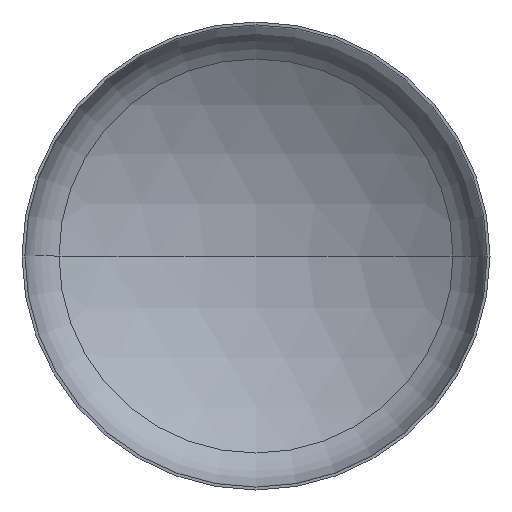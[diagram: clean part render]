
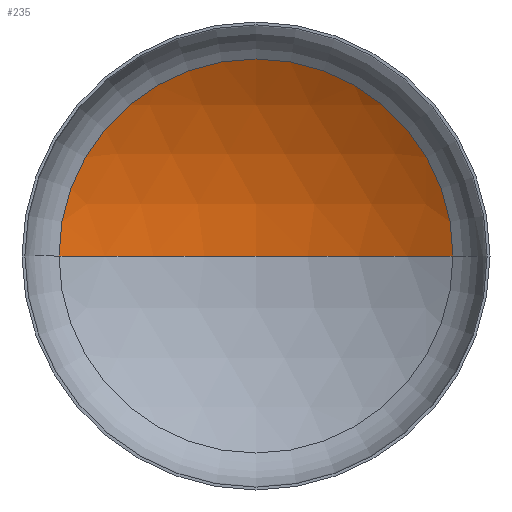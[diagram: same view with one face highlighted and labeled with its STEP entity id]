
A CAD part, front view. The second image highlights one B-rep face of the part: STEP entity #235.
In plain terms, the highlighted spherical face has radius 6400 mm.
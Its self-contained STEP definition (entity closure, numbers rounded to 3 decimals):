
#31 = AXIS2_PLACEMENT_3D ( 'NONE', #162, #214, #157 ) ;
#36 = SPHERICAL_SURFACE ( 'NONE', #31, 6400. ) ;
#67 = AXIS2_PLACEMENT_3D ( 'NONE', #241, #242, #339 ) ;
#68 = VERTEX_POINT ( 'NONE', #166 ) ;
#70 = AXIS2_PLACEMENT_3D ( 'NONE', #348, #328, #325 ) ;
#72 = AXIS2_PLACEMENT_3D ( 'NONE', #347, #345, #341 ) ;
#73 = ORIENTED_EDGE ( 'NONE', *, *, #109, .T. ) ;
#84 = ORIENTED_EDGE ( 'NONE', *, *, #111, .T. ) ;
#109 = EDGE_CURVE ( 'NONE', #68, #125, #334, .T. ) ;
#111 = EDGE_CURVE ( 'NONE', #231, #68, #213, .T. ) ;
#114 = EDGE_CURVE ( 'NONE', #231, #125, #137, .T. ) ;
#125 = VERTEX_POINT ( 'NONE', #145 ) ;
#137 = CIRCLE ( 'NONE', #67, 6400. ) ;
#140 = EDGE_LOOP ( 'NONE', ( #143, #84, #73 ) ) ;
#143 = ORIENTED_EDGE ( 'NONE', *, *, #114, .F. ) ;
#145 = CARTESIAN_POINT ( 'NONE',  ( -3368.356, 1195.863, 0. ) ) ;
#154 = CARTESIAN_POINT ( 'NONE',  ( 0., 2153.972, 0. ) ) ;
#157 = DIRECTION ( 'NONE',  ( -1., 0., 0. ) ) ;
#162 = CARTESIAN_POINT ( 'NONE',  ( 0., -4246.028, 0. ) ) ;
#166 = CARTESIAN_POINT ( 'NONE',  ( 3368.356, 1195.863, 0. ) ) ;
#213 = CIRCLE ( 'NONE', #70, 6400. ) ;
#214 = DIRECTION ( 'NONE',  ( 0., 0., -1. ) ) ;
#231 = VERTEX_POINT ( 'NONE', #154 ) ;
#235 = ADVANCED_FACE ( 'NONE', ( #257 ), #36, .F. ) ;
#241 = CARTESIAN_POINT ( 'NONE',  ( 0., -4246.028, 0. ) ) ;
#242 = DIRECTION ( 'NONE',  ( 0., 0., 1. ) ) ;
#257 = FACE_OUTER_BOUND ( 'NONE', #140, .T. ) ;
#325 = DIRECTION ( 'NONE',  ( -1., 0., 0. ) ) ;
#328 = DIRECTION ( 'NONE',  ( 0., 0., -1. ) ) ;
#334 = CIRCLE ( 'NONE', #72, 3368.356 ) ;
#339 = DIRECTION ( 'NONE',  ( 1., 0., 0. ) ) ;
#341 = DIRECTION ( 'NONE',  ( 1., 0., 0. ) ) ;
#345 = DIRECTION ( 'NONE',  ( 0., -1., 0. ) ) ;
#347 = CARTESIAN_POINT ( 'NONE',  ( 0., 1195.863, 0. ) ) ;
#348 = CARTESIAN_POINT ( 'NONE',  ( 0., -4246.028, 0. ) ) ;
